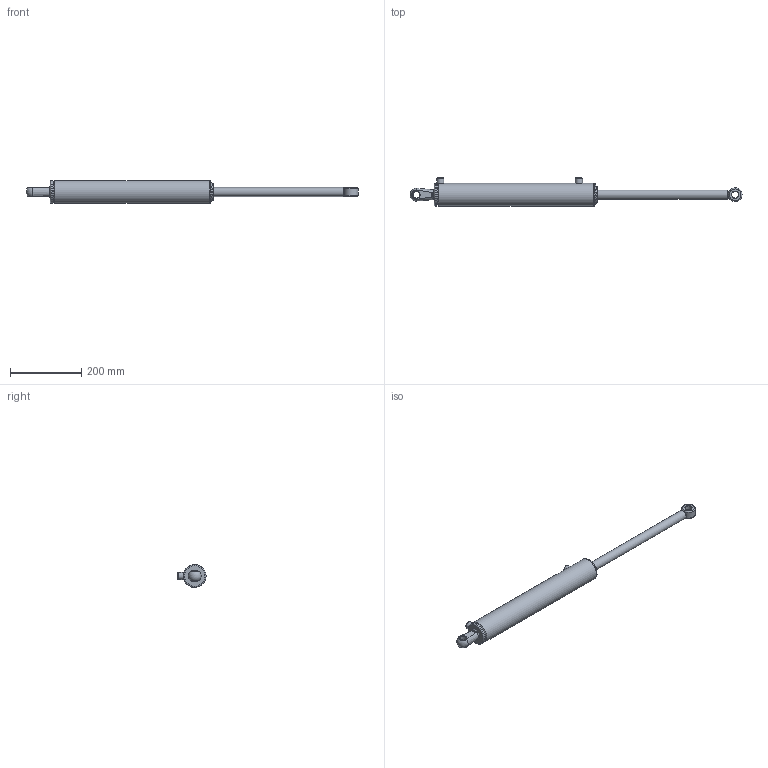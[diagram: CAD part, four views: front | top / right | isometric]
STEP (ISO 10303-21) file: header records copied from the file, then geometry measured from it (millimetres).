
FILE_DESCRIPTION(/* description */ ('Alibre Inc.'),/* implementation_level */ '2;1');
FILE_NAME(/* name */ 'export0',/* time_stamp */ '2016-08-16T09:52:00+12:00',/* author */ (''),/* organization */ (''),/* preprocessor_version */ 'ST-DEVELOPER v14',/* originating_system */ 'Alibre',/* authorisation */ '');
FILE_SCHEMA (('AUTOMOTIVE_DESIGN'));
Length unit declared in the file: centimetre
Bounding box: 928.94 x 78.5 x 63.5 mm (x, y, z)
Volume: 924906.9 mm3; surface area: 256993.9 mm2
Topology: 11 solids, 11 shells, 138 faces, 278 edges, 173 vertices
Faces by surface type: cylinder 51, plane 44, cone 27, torus 13, bspline 2, sphere 1
Full cylindrical faces by diameter (mm): 2.5 x2, 5.588 x1, 6.35 x2, 8.3 x2, 11.9 x2, 17.323 x2, 19.05 x2, 19.101 x1, 20 x2, 25.4 x1, 25.45 x2, 31.77 x1, 31.8 x1, 32.5 x1, 34.93 x2, 38.1 x1, 41.3 x2, 44.91 x1, 45.5 x1, 46.23 x2, 48 x2, 48.3 x1, 49.48 x2, 50.07 x1, 50.69 x2, 50.8 x2, 54 x1, 63.5 x3
Entity records: 3664 total; most frequent: CARTESIAN_POINT 968, DIRECTION 530, ORIENTED_EDGE 330, AXIS2_PLACEMENT_3D 283, FACE_BOUND 258, EDGE_LOOP 256, EDGE_CURVE 165, VERTEX_POINT 153
